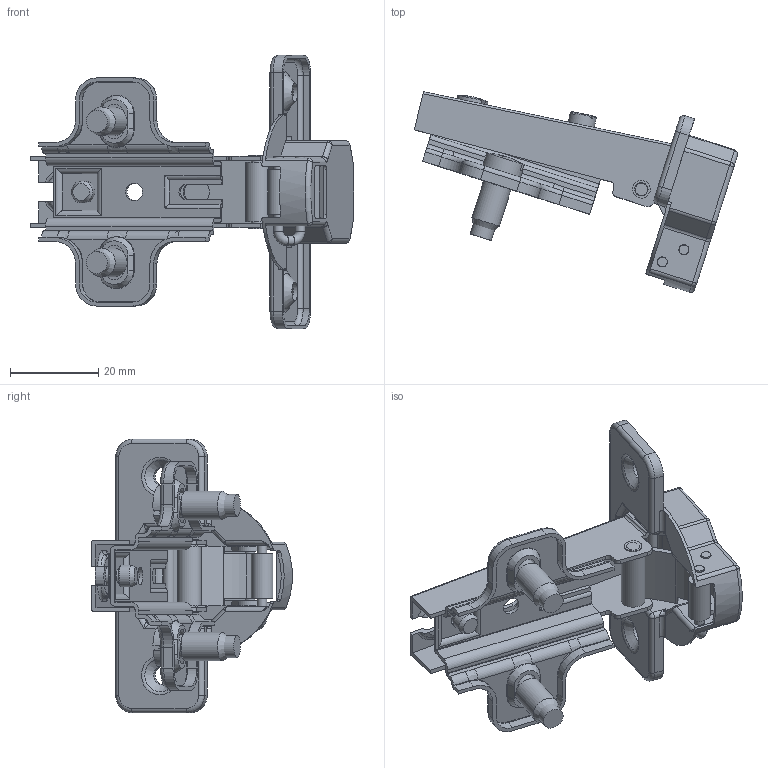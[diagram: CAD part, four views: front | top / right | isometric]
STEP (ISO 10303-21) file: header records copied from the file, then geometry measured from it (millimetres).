
FILE_DESCRIPTION(/* description */ (''),/* implementation_level */ '2;1');
FILE_NAME(/* name */ 'W:\R&D\pub\Katalog techniczny\bryły 3D\ZP-BICN092ZE.stp',/* time_stamp */ '2016-09-13T12:54:17+02:00',/* author */ ('tomaszw'),/* organization */ (''),/* preprocessor_version */ 'ST-DEVELOPER v16.1',/* originating_system */ 'Autodesk Inventor 2016',/* authorisation */ '');
FILE_SCHEMA (('AUTOMOTIVE_DESIGN { 1 0 10303 214 3 1 1 }'));
Length unit declared in the file: millimetre
Products named in the file (12): P2; ZP-BICN0_1; ZP-BICN0-P; ZP-BICN0_2; ZP-BICN0_pin1; ZP-BICN0_pin2; ZP-BICN0_pin3; Euro; Wkret4x6; WR; ZP-BICN090BE; ZP-BICN(R)07(8)(9)0(2)BE(ZE)
Assembly tree (12 placements, depth 2):
  ZP-BICN(R)07(8)(9)0(2)BE(ZE)
    P2
    ZP-BICN0_1
    ZP-BICN0-P
    ZP-BICN0_2
    ZP-BICN0_pin1
    ZP-BICN0_pin2
    ZP-BICN0_pin3
    Euro  x2
    Wkret4x6
    WR
    ZP-BICN090BE
Bounding box: 73.26 x 45.45 x 62 mm (x, y, z)
Volume: 9596.7 mm3; surface area: 20063 mm2
Topology: 14 solids, 14 shells, 687 faces, 1697 edges, 1032 vertices
Faces by surface type: cylinder 284, plane 245, torus 65, bspline 37, sphere 34, cone 22
Full cylindrical faces by diameter (mm): 2.2 x3, 2.279 x2, 2.3 x4, 2.5 x4, 2.8 x1, 3 x5, 3.242 x1, 3.5 x2, 4 x4, 4.2 x2, 5 x3, 5.5 x2, 6 x2, 6.5 x2, 7 x1, 9 x2
Entity records: 20729 total; most frequent: CARTESIAN_POINT 4733, DIRECTION 3467, ORIENTED_EDGE 3150, EDGE_CURVE 1575, AXIS2_PLACEMENT_3D 1341, VERTEX_POINT 990, LINE 785, VECTOR 785
